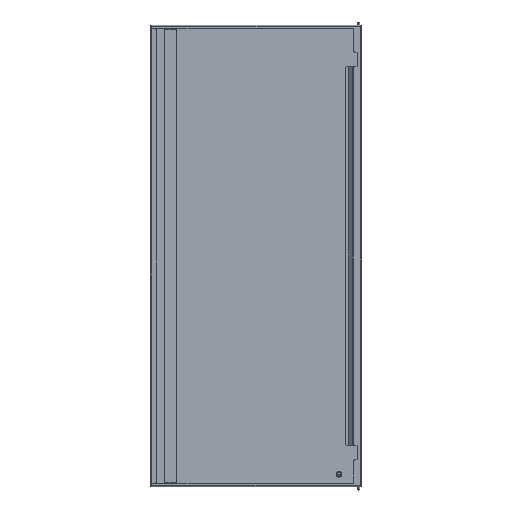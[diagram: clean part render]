
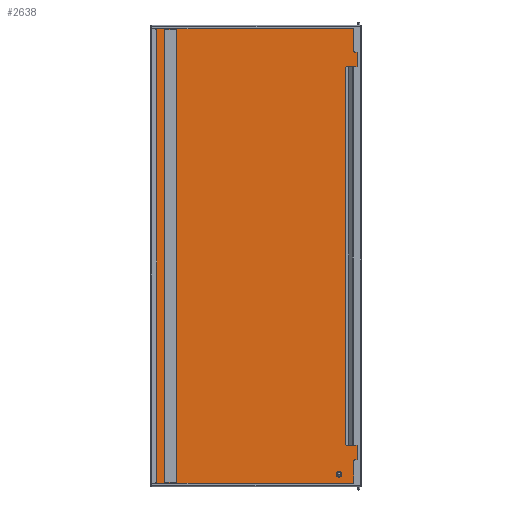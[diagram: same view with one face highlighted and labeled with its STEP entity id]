
A CAD part, top view. The second image highlights one B-rep face of the part: STEP entity #2638.
In plain terms, the highlighted planar face has unit normal (0, 0, 1).
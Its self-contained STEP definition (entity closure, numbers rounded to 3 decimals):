
#14 = VERTEX_POINT ( 'NONE', #4162 ) ;
#381 = VECTOR ( 'NONE', #754, 1000. ) ;
#382 = VECTOR ( 'NONE', #682, 1000. ) ;
#390 = VECTOR ( 'NONE', #1609, 1000. ) ;
#436 = VECTOR ( 'NONE', #1070, 1000. ) ;
#456 = VECTOR ( 'NONE', #1149, 1000. ) ;
#457 = VECTOR ( 'NONE', #989, 1000. ) ;
#464 = AXIS2_PLACEMENT_3D ( 'NONE', #1488, #1247, #912 ) ;
#469 = AXIS2_PLACEMENT_3D ( 'NONE', #751, #974, #1236 ) ;
#484 = AXIS2_PLACEMENT_3D ( 'NONE', #861, #1332, #1313 ) ;
#509 = VECTOR ( 'NONE', #999, 1000. ) ;
#618 = CARTESIAN_POINT ( 'NONE',  ( -224.6, 556.75, -12. ) ) ;
#621 = CARTESIAN_POINT ( 'NONE',  ( 226.879, -465.75, -12. ) ) ;
#632 = LINE ( 'NONE', #1104, #390 ) ;
#682 = DIRECTION ( 'NONE',  ( 0., -1., 0. ) ) ;
#686 = LINE ( 'NONE', #1538, #382 ) ;
#718 = DIRECTION ( 'NONE',  ( 0., -1., 0. ) ) ;
#751 = CARTESIAN_POINT ( 'NONE',  ( 224.621, -461.25, -12. ) ) ;
#754 = DIRECTION ( 'NONE',  ( -1., 0., 0. ) ) ;
#756 = DIRECTION ( 'NONE',  ( 1., 0., 0. ) ) ;
#825 = LINE ( 'NONE', #855, #3369 ) ;
#833 = LINE ( 'NONE', #1329, #456 ) ;
#840 = LINE ( 'NONE', #1229, #3370 ) ;
#850 = CARTESIAN_POINT ( 'NONE',  ( -256., 0., -12. ) ) ;
#855 = CARTESIAN_POINT ( 'NONE',  ( -195.5, -556.75, -12. ) ) ;
#856 = CARTESIAN_POINT ( 'NONE',  ( 0., -563.75, -12. ) ) ;
#861 = CARTESIAN_POINT ( 'NONE',  ( 204., -536.75, -12. ) ) ;
#899 = DIRECTION ( 'NONE',  ( 0., 1., 0. ) ) ;
#912 = DIRECTION ( 'NONE',  ( 1., 0., 0. ) ) ;
#931 = DIRECTION ( 'NONE',  ( 1., 0., 0. ) ) ;
#932 = CARTESIAN_POINT ( 'NONE',  ( 0., 0., -12. ) ) ;
#934 = PLANE ( 'NONE',  #2052 ) ;
#936 = DIRECTION ( 'NONE',  ( 0., 0., 1. ) ) ;
#941 = CARTESIAN_POINT ( 'NONE',  ( 226.879, 465.75, -12. ) ) ;
#968 = CARTESIAN_POINT ( 'NONE',  ( 220.121, -488.171, -12. ) ) ;
#974 = DIRECTION ( 'NONE',  ( 0., 0., -1. ) ) ;
#982 = LINE ( 'NONE', #968, #457 ) ;
#985 = LINE ( 'NONE', #621, #509 ) ;
#989 = DIRECTION ( 'NONE',  ( 0., 1., 0. ) ) ;
#999 = DIRECTION ( 'NONE',  ( -1., 0., 0. ) ) ;
#1059 = CARTESIAN_POINT ( 'NONE',  ( -224.6, -556.75, -12. ) ) ;
#1070 = DIRECTION ( 'NONE',  ( 0., 1., 0. ) ) ;
#1086 = LINE ( 'NONE', #941, #3374 ) ;
#1104 = CARTESIAN_POINT ( 'NONE',  ( 226.879, -488.171, -12. ) ) ;
#1149 = DIRECTION ( 'NONE',  ( 1., 0., 0. ) ) ;
#1202 = LINE ( 'NONE', #618, #3363 ) ;
#1229 = CARTESIAN_POINT ( 'NONE',  ( -224.6, -556.75, -12. ) ) ;
#1236 = DIRECTION ( 'NONE',  ( 1., 0., 0. ) ) ;
#1247 = DIRECTION ( 'NONE',  ( 0., 0., -1. ) ) ;
#1260 = LINE ( 'NONE', #1059, #3365 ) ;
#1313 = DIRECTION ( 'NONE',  ( 1., 0., 0. ) ) ;
#1329 = CARTESIAN_POINT ( 'NONE',  ( 0., 563.75, -12. ) ) ;
#1332 = DIRECTION ( 'NONE',  ( 0., 0., 1. ) ) ;
#1488 = CARTESIAN_POINT ( 'NONE',  ( 224.621, 461.25, -12. ) ) ;
#1499 = LINE ( 'NONE', #850, #436 ) ;
#1500 = DIRECTION ( 'NONE',  ( -1., 0., 0. ) ) ;
#1533 = LINE ( 'NONE', #856, #381 ) ;
#1538 = CARTESIAN_POINT ( 'NONE',  ( 256., 0., -12. ) ) ;
#1555 = DIRECTION ( 'NONE',  ( -1., 0., 0. ) ) ;
#1609 = DIRECTION ( 'NONE',  ( 0., 1., 0. ) ) ;
#1694 = VERTEX_POINT ( 'NONE', #4040 ) ;
#1695 = VERTEX_POINT ( 'NONE', #4277 ) ;
#1707 = VERTEX_POINT ( 'NONE', #4306 ) ;
#1735 = VERTEX_POINT ( 'NONE', #3984 ) ;
#1737 = VERTEX_POINT ( 'NONE', #4394 ) ;
#1743 = VERTEX_POINT ( 'NONE', #4367 ) ;
#1749 = VERTEX_POINT ( 'NONE', #4313 ) ;
#1770 = VERTEX_POINT ( 'NONE', #4034 ) ;
#1784 = VERTEX_POINT ( 'NONE', #3993 ) ;
#1785 = VERTEX_POINT ( 'NONE', #4305 ) ;
#1786 = VERTEX_POINT ( 'NONE', #4052 ) ;
#1799 = VERTEX_POINT ( 'NONE', #4386 ) ;
#1802 = VERTEX_POINT ( 'NONE', #3950 ) ;
#1811 = VERTEX_POINT ( 'NONE', #4290 ) ;
#1814 = VERTEX_POINT ( 'NONE', #4211 ) ;
#2032 = FACE_BOUND ( 'NONE', #3901, .T. ) ;
#2047 = FACE_BOUND ( 'NONE', #3869, .T. ) ;
#2052 = AXIS2_PLACEMENT_3D ( 'NONE', #932, #936, #931 ) ;
#2276 = FACE_OUTER_BOUND ( 'NONE', #3116, .T. ) ;
#2293 = FACE_BOUND ( 'NONE', #3123, .T. ) ;
#2409 = CIRCLE ( 'NONE', #464, 4.5 ) ;
#2410 = CIRCLE ( 'NONE', #469, 4.5 ) ;
#2412 = CIRCLE ( 'NONE', #484, 0.25 ) ;
#2460 = EDGE_CURVE ( 'NONE', #1749, #1799, #833, .T. ) ;
#2565 = EDGE_CURVE ( 'NONE', #1743, #1814, #632, .T. ) ;
#2568 = EDGE_CURVE ( 'NONE', #1799, #1695, #686, .T. ) ;
#2569 = EDGE_CURVE ( 'NONE', #1707, #1749, #1499, .T. ) ;
#2570 = EDGE_CURVE ( 'NONE', #1737, #1784, #982, .T. ) ;
#2571 = EDGE_CURVE ( 'NONE', #14, #1737, #2410, .T. ) ;
#2572 = EDGE_CURVE ( 'NONE', #1695, #1707, #1533, .T. ) ;
#2573 = EDGE_CURVE ( 'NONE', #1743, #14, #985, .T. ) ;
#2575 = EDGE_CURVE ( 'NONE', #1784, #1785, #2409, .T. ) ;
#2578 = EDGE_CURVE ( 'NONE', #1786, #1735, #825, .T. ) ;
#2580 = EDGE_CURVE ( 'NONE', #1814, #1785, #1086, .T. ) ;
#2581 = EDGE_CURVE ( 'NONE', #1694, #1811, #2412, .T. ) ;
#2583 = EDGE_CURVE ( 'NONE', #1802, #1770, #840, .T. ) ;
#2584 = EDGE_CURVE ( 'NONE', #1770, #1786, #1260, .T. ) ;
#2585 = EDGE_CURVE ( 'NONE', #1735, #1802, #1202, .T. ) ;
#2638 = ADVANCED_FACE ( 'NONE', ( #2276, #2047, #2293, #2032 ), #934, .T. ) ;
#2850 = CIRCLE ( 'NONE', #4491, 0.25 ) ;
#3016 = EDGE_CURVE ( 'NONE', #1811, #1694, #2850, .T. ) ;
#3116 = EDGE_LOOP ( 'NONE', ( #4327, #4041, #4044, #4225 ) ) ;
#3123 = EDGE_LOOP ( 'NONE', ( #4267, #4160 ) ) ;
#3363 = VECTOR ( 'NONE', #1555, 1000. ) ;
#3365 = VECTOR ( 'NONE', #756, 1000. ) ;
#3369 = VECTOR ( 'NONE', #899, 1000. ) ;
#3370 = VECTOR ( 'NONE', #718, 1000. ) ;
#3374 = VECTOR ( 'NONE', #1500, 1000. ) ;
#3869 = EDGE_LOOP ( 'NONE', ( #3942, #4311, #3995, #4388, #4341, #4292 ) ) ;
#3901 = EDGE_LOOP ( 'NONE', ( #4098, #4215, #4272, #4106 ) ) ;
#3942 = ORIENTED_EDGE ( 'NONE', *, *, #2565, .F. ) ;
#3950 = CARTESIAN_POINT ( 'NONE',  ( -224.6, 556.75, -12. ) ) ;
#3984 = CARTESIAN_POINT ( 'NONE',  ( -195.5, 556.75, -12. ) ) ;
#3993 = CARTESIAN_POINT ( 'NONE',  ( 220.121, 461.25, -12. ) ) ;
#3995 = ORIENTED_EDGE ( 'NONE', *, *, #2571, .T. ) ;
#4034 = CARTESIAN_POINT ( 'NONE',  ( -224.6, -556.75, -12. ) ) ;
#4040 = CARTESIAN_POINT ( 'NONE',  ( 204.25, -536.75, -12. ) ) ;
#4041 = ORIENTED_EDGE ( 'NONE', *, *, #2460, .F. ) ;
#4044 = ORIENTED_EDGE ( 'NONE', *, *, #2569, .F. ) ;
#4052 = CARTESIAN_POINT ( 'NONE',  ( -195.5, -556.75, -12. ) ) ;
#4098 = ORIENTED_EDGE ( 'NONE', *, *, #2585, .F. ) ;
#4106 = ORIENTED_EDGE ( 'NONE', *, *, #2583, .F. ) ;
#4160 = ORIENTED_EDGE ( 'NONE', *, *, #3016, .F. ) ;
#4162 = CARTESIAN_POINT ( 'NONE',  ( 224.621, -465.75, -12. ) ) ;
#4211 = CARTESIAN_POINT ( 'NONE',  ( 226.879, 465.75, -12. ) ) ;
#4215 = ORIENTED_EDGE ( 'NONE', *, *, #2578, .F. ) ;
#4225 = ORIENTED_EDGE ( 'NONE', *, *, #2572, .F. ) ;
#4267 = ORIENTED_EDGE ( 'NONE', *, *, #2581, .F. ) ;
#4272 = ORIENTED_EDGE ( 'NONE', *, *, #2584, .F. ) ;
#4277 = CARTESIAN_POINT ( 'NONE',  ( 256., -563.75, -12. ) ) ;
#4290 = CARTESIAN_POINT ( 'NONE',  ( 203.75, -536.75, -12. ) ) ;
#4292 = ORIENTED_EDGE ( 'NONE', *, *, #2580, .F. ) ;
#4305 = CARTESIAN_POINT ( 'NONE',  ( 224.621, 465.75, -12. ) ) ;
#4306 = CARTESIAN_POINT ( 'NONE',  ( -256., -563.75, -12. ) ) ;
#4311 = ORIENTED_EDGE ( 'NONE', *, *, #2573, .T. ) ;
#4313 = CARTESIAN_POINT ( 'NONE',  ( -256., 563.75, -12. ) ) ;
#4327 = ORIENTED_EDGE ( 'NONE', *, *, #2568, .F. ) ;
#4341 = ORIENTED_EDGE ( 'NONE', *, *, #2575, .T. ) ;
#4367 = CARTESIAN_POINT ( 'NONE',  ( 226.879, -465.75, -12. ) ) ;
#4386 = CARTESIAN_POINT ( 'NONE',  ( 256., 563.75, -12. ) ) ;
#4388 = ORIENTED_EDGE ( 'NONE', *, *, #2570, .T. ) ;
#4394 = CARTESIAN_POINT ( 'NONE',  ( 220.121, -461.25, -12. ) ) ;
#4491 = AXIS2_PLACEMENT_3D ( 'NONE', #4632, #4728, #4630 ) ;
#4630 = DIRECTION ( 'NONE',  ( 1., 0., 0. ) ) ;
#4632 = CARTESIAN_POINT ( 'NONE',  ( 204., -536.75, -12. ) ) ;
#4728 = DIRECTION ( 'NONE',  ( 0., 0., 1. ) ) ;
